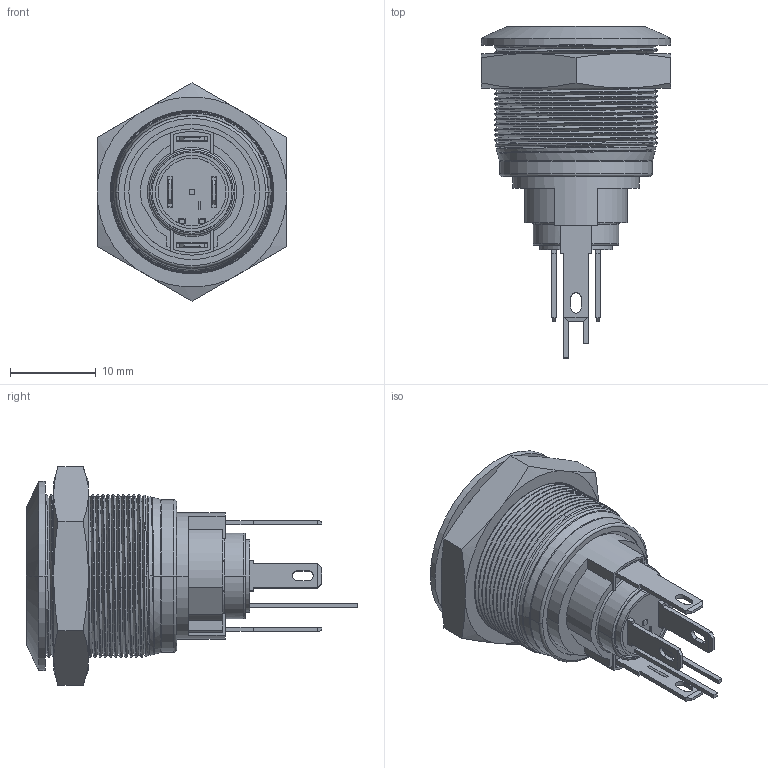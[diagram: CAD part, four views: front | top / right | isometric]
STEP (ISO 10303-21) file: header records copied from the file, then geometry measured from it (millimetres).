
FILE_DESCRIPTION((''),'2;1');
FILE_NAME('AV091LVEA810K','2010-05-03T',('snouilhan'),(''),'PRO/ENGINEER BY PARAMETRIC TECHNOLOGY CORPORATION, 2009440','PRO/ENGINEER BY PARAMETRIC TECHNOLOGY CORPORATION, 2009440','');
FILE_SCHEMA(('CONFIG_CONTROL_DESIGN'));
Length unit declared in the file: millimetre
Products named in the file (1): AV091LVEA810K
Bounding box: 22 x 38.63 x 25.4 mm (x, y, z)
Volume: 3219.9 mm3; surface area: 6158.7 mm2
Topology: 5 solids, 5 shells, 528 faces, 1464 edges, 940 vertices
Faces by surface type: plane 360, cylinder 111, cone 31, torus 12, bspline 10, sphere 4
Entity records: 27527 total; most frequent: CARTESIAN_POINT 13973, ORIENTED_EDGE 2924, DIRECTION 2661, EDGE_CURVE 1462, VECTOR 1049, LINE 1049, VERTEX_POINT 940, AXIS2_PLACEMENT_3D 806
